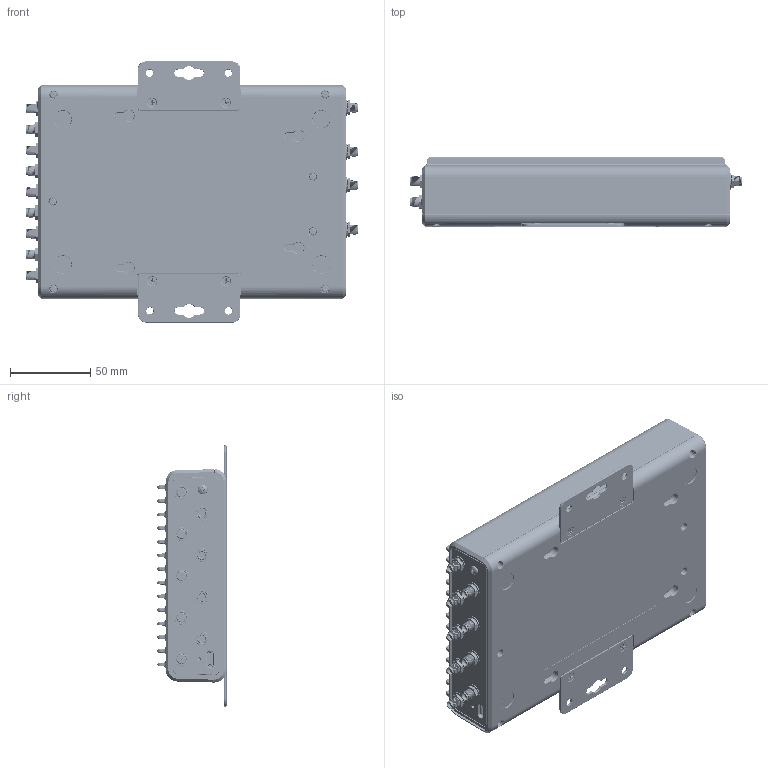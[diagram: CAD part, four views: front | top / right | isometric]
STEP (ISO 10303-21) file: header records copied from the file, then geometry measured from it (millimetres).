
FILE_DESCRIPTION(/* description */ (''),/* implementation_level */ '2;1');
FILE_NAME(/* name */ '50002224-PRT REV 01.step',/* time_stamp */ '2026-02-16T13:48:46-05:00',/* author */ (''),/* organization */ (''),/* preprocessor_version */ 'ST-DEVELOPER v20.1',/* originating_system */ 'Autodesk Translation Framework v14.24.0.0',/* authorisation */ '');
FILE_SCHEMA (('AUTOMOTIVE_DESIGN { 1 0 10303 214 3 1 1 }'));
Products named in the file (165): 260203_ASM; 0915_ASM_1_ASM; 000_QDM105_EA_ALL_ASM_4_ASM_2_ASM; 00_PCBA_ASM_ASM_1_ASM_2_ASM; C3000RD20211T0101PA_ASM_1_ASM_2_ASM; 430450400_1_1; TS45EA38B16B020_ASM_1_ASM_2_ASM; 5B_0001_ASM_1_ASM_2_ASM; TS45EA0_1-902433_1; 111_1_1; TS45EA0_1-903834_1; TS45EA0_1-904182_1; TS45EA0_1-903498_1; QDM105_LED_FPC_1_1; UN521-001_DUMMY_ASM_2_ASM_1_ASM_ASM; MAIN_IM_ASM_1_ASM_ASM_1_ASM_1_A_ASM; PCB_P8_1_1_1_1; MAIN_IM_ASM_1_ASM_1_ASM_ASM_1_1_ASM; OUT_HSG_1_1_2_1_1; _UN521-001_DUMMY_1_1_1; 109315141_1_1; 1043X6562-20240513_1_ASM_2_ASM; 1043X6562-20240513_1_1_1; 1043X6562-20240513_1_2_1; 109315281_RJ45_1X40001_8_ASM_1__ASM; 109315281_RJ45_1X40001_8_1_1_1; 109315281_RJ45_1X40001_8_2_1_1; 109315281_RJ45_1X40001_8_3_1_1; 109315281_RJ45_1X40001_8_4_1_1; 109315281_RJ45_1X40001_8_5_1_1; 109315281_RJ45_1X40001_8_6_1_1; 109315281_RJ45_1X40001_8_7_1_1; 109315281_RJ45_1X40001_8_8_1_1; 109315281_RJ45_1X40001_8_9_1_1; 109315281_RJ45_1X40001_8_10_1_1; 109315281_RJ45_1X40001_8_11_1_1; 109315281_RJ45_1X40001_8_12_1_1; 109315281_RJ45_1X40001_8_13_1_1; 109315281_RJ45_1X40001_8_14_1_1; 109315281_RJ45_1X40001_8_15_1_1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
Assembly tree (233 placements, depth 10):
  260203_ASM
    0915_ASM_1_ASM
      000_QDM105_EA_ALL_ASM_4_ASM_2_ASM
        00_PCBA_ASM_ASM_1_ASM_2_ASM
          NANO_SIM_ASM_ASM_8_ASM_1_ASM_2_ASM  x4
            C7801-2_14_1_1
            NANO_SIM_CARD_6_1_1
          C3000RD20211T0101PA_ASM_1_ASM_2_ASM
            430450400_1_1
          TS45EA38B16B020_ASM_1_ASM_2_ASM
            5B_0001_ASM_1_ASM_2_ASM
              TS45EA0_1-902433_1
              111_1_1
              TS45EA0_1-903498_1  x2
              TS45EA0_1-903834_1
              TS45EA0_1-904182_1
          QDM105_LED_FPC_1_1
          UN521-001_DUMMY_ASM_2_ASM_1_ASM_ASM
            MAIN_IM_ASM_1_ASM_ASM_1_ASM_1_A_ASM
              PCB_P8_1_1_1_1
              MAIN_IM_ASM_1_ASM_1_ASM_ASM_1_1_ASM
                OUT_HSG_1_1_2_1_1
            _UN521-001_DUMMY_1_1_1
          SMA_1_1_1_1  x4
          109315141_1_1
          TAPPING_M2_6-L8_1_1  x6
          1043X6562-20240513_1_ASM_2_ASM
            1043X6562-20240513_1_1_1
            1043X6562-20240513_1_2_1
          FPC05024-59200_1_1
          109315281_RJ45_1X40001_8_ASM_1__ASM
            109315281_RJ45_1X40001_8_1_1_1
            109315281_RJ45_1X40001_8_2_1_1
            109315281_RJ45_1X40001_8_3_1_1
            109315281_RJ45_1X40001_8_4_1_1
            109315281_RJ45_1X40001_8_5_1_1
            109315281_RJ45_1X40001_8_6_1_1
            109315281_RJ45_1X40001_8_7_1_1
            109315281_RJ45_1X40001_8_8_1_1
            109315281_RJ45_1X40001_8_9_1_1
            109315281_RJ45_1X40001_8_10_1_1
            109315281_RJ45_1X40001_8_11_1_1
            109315281_RJ45_1X40001_8_12_1_1
            109315281_RJ45_1X40001_8_13_1_1
            109315281_RJ45_1X40001_8_14_1_1
            109315281_RJ45_1X40001_8_15_1_1
            109315281_RJ45_1X40001_8_16_1_1
            109315281_RJ45_1X40001_8_17_1_1
            109315281_RJ45_1X40001_8_18_1_1
            109315281_RJ45_1X40001_8_19_1_1
            109315281_RJ45_1X40001_8_20_1_1
          QM0016200530_JS5A-Y1010310030_1_ASM
            GS2B44EDE8LR6E_ASM_3_ASM_1_AS_1_ASM
              GS2B44EDE8LR6E_1_3_1_1_1
              GS2B44EDE8LR6E_2_3_1_1_1
              GS2B44EDE8LR6E_3_3_1_1_1
              GS2B44EDE8LR6E_4_3_1_1_1
              GS2B44EDE8LR6E_5_3_1_1_1
              GS2B44EDE8LR6E_6_3_1_1_1
              GS2B44EDE8LR6E_7_3_1_1_1
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Bounding box: 206.97 x 43.04 x 162.85 mm (x, y, z)
Volume: 337893.8 mm3; surface area: 305476 mm2
Topology: 204 solids, 432 shells, 26845 faces, 72205 edges, 45719 vertices
Faces by surface type: plane 14093, cylinder 7963, bspline 2034, torus 1323, cone 1154, sphere 278
Full cylindrical faces by diameter (mm): 0.27 x8, 0.3 x8, 0.313 x6, 0.4 x18, 0.46 x143, 0.48 x4, 0.5 x5, 0.52 x10, 0.7 x4, 0.76 x4, 0.8 x17, 1 x35, 1.01 x4, 1.1 x42, 1.2 x2, 1.26 x19, 1.3 x16, 1.4 x2, 1.5 x1, 1.6 x11, 1.7 x1, 1.758 x1, 1.8 x2, 2 x1, 2.08 x14, 2.2 x17, 2.3 x6, 2.4 x7, 2.5 x21, 2.502 x9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
Entity records: 728842 total; most frequent: CARTESIAN_POINT 272647, ORIENTED_EDGE 94176, DIRECTION 90247, EDGE_CURVE 48120, VERTEX_POINT 30736, AXIS2_PLACEMENT_3D 30171, LINE 29905, VECTOR 29905
